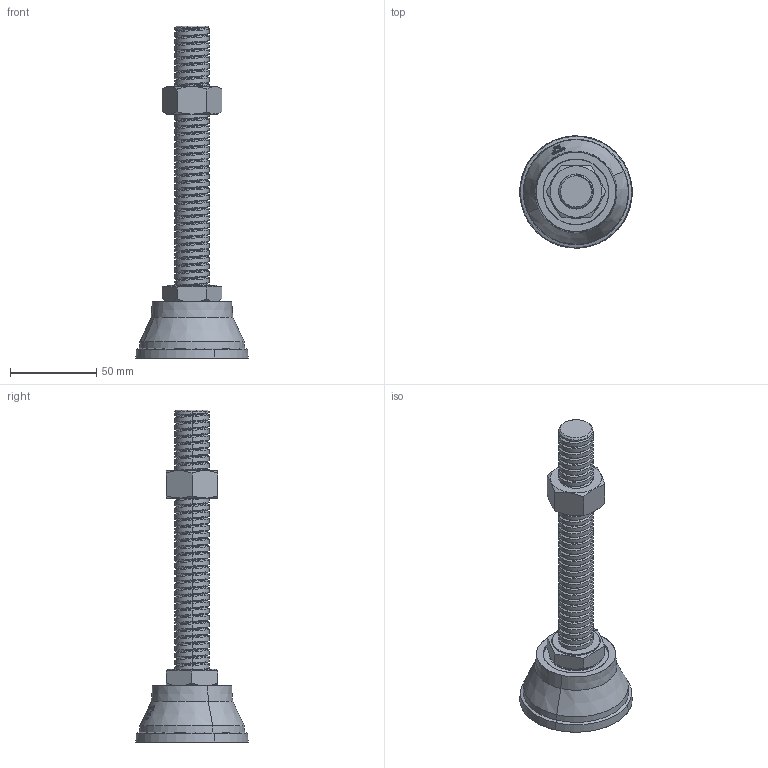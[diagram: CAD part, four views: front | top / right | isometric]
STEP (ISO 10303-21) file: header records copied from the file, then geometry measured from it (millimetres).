
FILE_DESCRIPTION (( 'STEP AP203' ), '1' );
FILE_NAME ('F-100-2-20-L.STEP', '2015-11-24T01:06:37', ( '' ), ( '' ), 'SwSTEP 2.0', 'SolidWorks 2014', '' );
FILE_SCHEMA (( 'CONFIG_CONTROL_DESIGN' ));
Length unit declared in the file: millimetre
Products named in the file (4): M20螺帽-3; DT-M20X150L-12調整螺絲-1; 90圓腳座-5-1; F-100-2-20-L
Assembly tree (3 placements, depth 2):
  F-100-2-20-L
    M20螺帽-3
    DT-M20X150L-12調整螺絲-1
    90圓腳座-5-1
Bounding box: 64.89 x 64.96 x 192 mm (x, y, z)
Volume: 67041.3 mm3; surface area: 34756.3 mm2
Topology: 3 solids, 289 shells, 467 faces, 1982 edges, 1790 vertices
Faces by surface type: bspline 214, cylinder 114, cone 84, plane 55
Entity records: 36195 total; most frequent: CARTESIAN_POINT 22817, ORIENTED_EDGE 2430, EDGE_CURVE 1962, VERTEX_POINT 1790, DIRECTION 1655, B_SPLINE_CURVE_WITH_KNOTS 856, LINE 715, VECTOR 715
